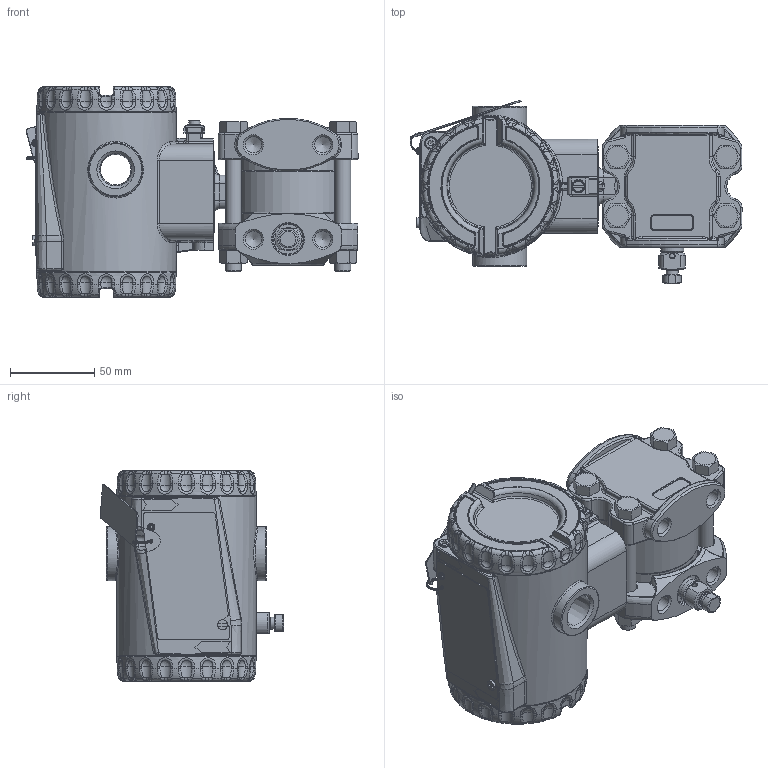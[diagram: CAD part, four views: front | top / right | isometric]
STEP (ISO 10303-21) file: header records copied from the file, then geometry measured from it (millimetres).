
FILE_DESCRIPTION(/* description */ (''),/* implementation_level */ '2;1');
FILE_NAME(/* name */ 'F:\Area\Desenvolvimento_2\Projects\Sensor\projetos\LD400-3d\dimensionais 3D clientes\LD400A4 1-4NPT Monel purga oposta.stp',/* time_stamp */ '2023-02-01T17:46:03-03:00',/* author */ ('inventor02'),/* organization */ (''),/* preprocessor_version */ 'ST-DEVELOPER v17',/* originating_system */ 'Autodesk Inventor 2019',/* authorisation */ '');
FILE_SCHEMA (('CONFIG_CONTROL_DESIGN'));
Products named in the file (30): LD400A4 1-4NPT Monel purga oposta; Carcaça 400 com tampas e plaqueta sem letras; 101-D-0845-05 carcaça LD400 sem letras; 101-B-3614-03-tampa 400 sem letras; Tampa visor 400 montada sem letras; 101-B-3612-05 tampa visor 400 sem letras; 101-A-6107; oring 2034; 00034775-0; WHW_250; DIN 915 - M6 x 10; Chapa aterramento externo; 201-A-1771-02 inserto terra recartilhado; AS 1969 - ST4,2; ISO 1207 - M4 x 8; ANSI B18.3.1M - M4x0,7 x 8; Subconjunto plaqueta 400; plaqueta 400 em branco; Parafuso da Plaqueta; Rebite da Plaqueta; 096-A-0169-03; 101-A-0502-01; manometrico FX4 monel purga oposta; involucro fx4 apos a usinagem final; 101-C-0040-05 monel barra 7-16; 096-C-0014-13 manom reforçado; Paraf. 3-8 x 16 UNC; Porca 3-8 x 16 UNC; 075-B-0046-purgador; Sangria
Assembly tree (36 placements, depth 4):
  LD400A4 1-4NPT Monel purga oposta
    Carcaça 400 com tampas e plaqueta sem letras
      101-D-0845-05 carcaça LD400 sem letras
      101-B-3614-03-tampa 400 sem letras
      Tampa visor 400 montada sem letras
        101-B-3612-05 tampa visor 400 sem letras
        101-A-6107
        oring 2034
        00034775-0
        WHW_250
      DIN 915 - M6 x 10
      Chapa aterramento externo
      201-A-1771-02 inserto terra recartilhado
      AS 1969 - ST4,2
      ISO 1207 - M4 x 8
      ANSI B18.3.1M - M4x0,7 x 8  x2
      Subconjunto plaqueta 400
        plaqueta 400 em branco
        Parafuso da Plaqueta
        Rebite da Plaqueta
        096-A-0169-03
        101-A-0502-01
    manometrico FX4 monel purga oposta
      involucro fx4 apos a usinagem final
      101-C-0040-05 monel barra 7-16
      096-C-0014-13 manom reforçado
      Paraf. 3-8 x 16 UNC  x4
      Porca 3-8 x 16 UNC  x4
      075-B-0046-purgador
      Sangria
Bounding box: 197.27 x 108.89 x 125 mm (x, y, z)
Volume: 640256.3 mm3; surface area: 235755.7 mm2
Topology: 32 solids, 32 shells, 2355 faces, 5790 edges, 3491 vertices
Faces by surface type: plane 617, cylinder 555, bspline 525, torus 397, cone 204, sphere 57
Full cylindrical faces by diameter (mm): 2 x2, 2.1 x1, 2.2 x1, 2.459 x3, 2.7 x1, 3 x3, 3.242 x3, 3.571 x1, 4 x4, 4.3 x2, 4.4 x1, 4.917 x1, 5 x2, 5.5 x1, 6 x2, 6.1 x2, 6.2 x1, 6.8 x1, 7 x3, 7.6 x2, 7.798 x4, 8 x1, 9.525 x4, 9.728 x8, 10.5 x8, 10.719 x2, 12 x1, 13.8 x1, 14 x1, 18.3 x2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
Entity records: 87174 total; most frequent: CARTESIAN_POINT 34564, ORIENTED_EDGE 11050, DIRECTION 10599, EDGE_CURVE 5525, AXIS2_PLACEMENT_3D 4489, VERTEX_POINT 3357, CIRCLE 2601, EDGE_LOOP 2368
